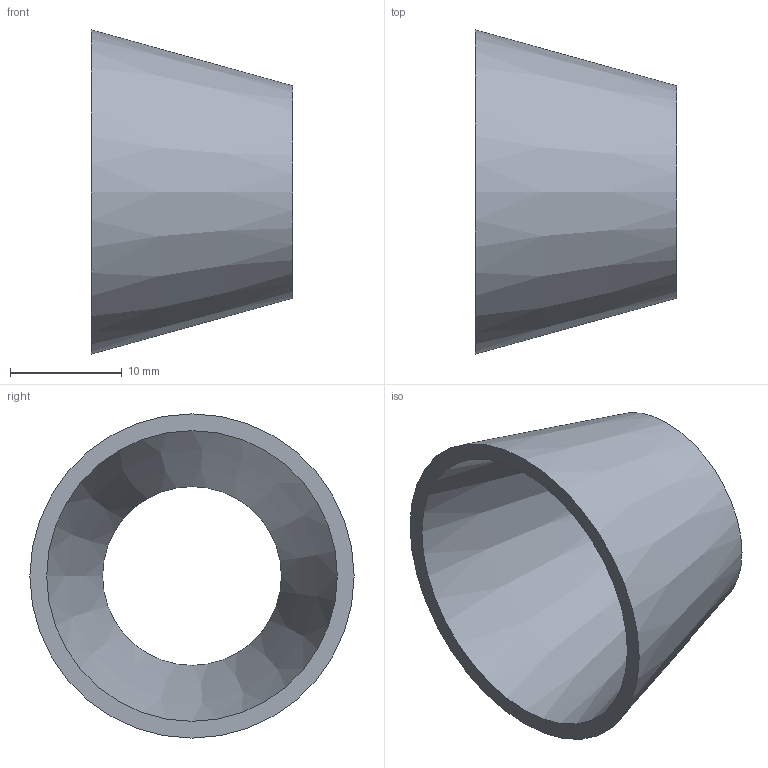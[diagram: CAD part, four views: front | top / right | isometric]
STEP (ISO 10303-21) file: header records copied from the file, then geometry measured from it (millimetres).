
FILE_DESCRIPTION(('FreeCAD Model'),'2;1');
FILE_NAME( '/home/martin/Documents/proyect/accesorios/stp/red-con_DN25-15.step', '2017-12-31T12:22:49',('Author'),(''), 'Open CASCADE STEP processor 6.8','FreeCAD','Unknown');
FILE_SCHEMA(('AUTOMOTIVE_DESIGN_CC2 { 1 2 10303 214 -1 1 5 4 }'));
Length unit declared in the file: millimetre
Products named in the file (1): red-con_DN25-15
Bounding box: 18 x 29 x 29 mm (x, y, z)
Volume: 1908.5 mm3; surface area: 2853.1 mm2
Topology: 1 solids, 1 shells, 4 faces, 6 edges, 4 vertices
Faces by surface type: cone 2, plane 2
Entity records: 191 total; most frequent: CARTESIAN_POINT 33, DIRECTION 26, ORIENTED_EDGE 12, PCURVE 12, DEFINITIONAL_REPRESENTATION 12, AXIS2_PLACEMENT_3D 9, CIRCLE 8, FACE_BOUND 6
